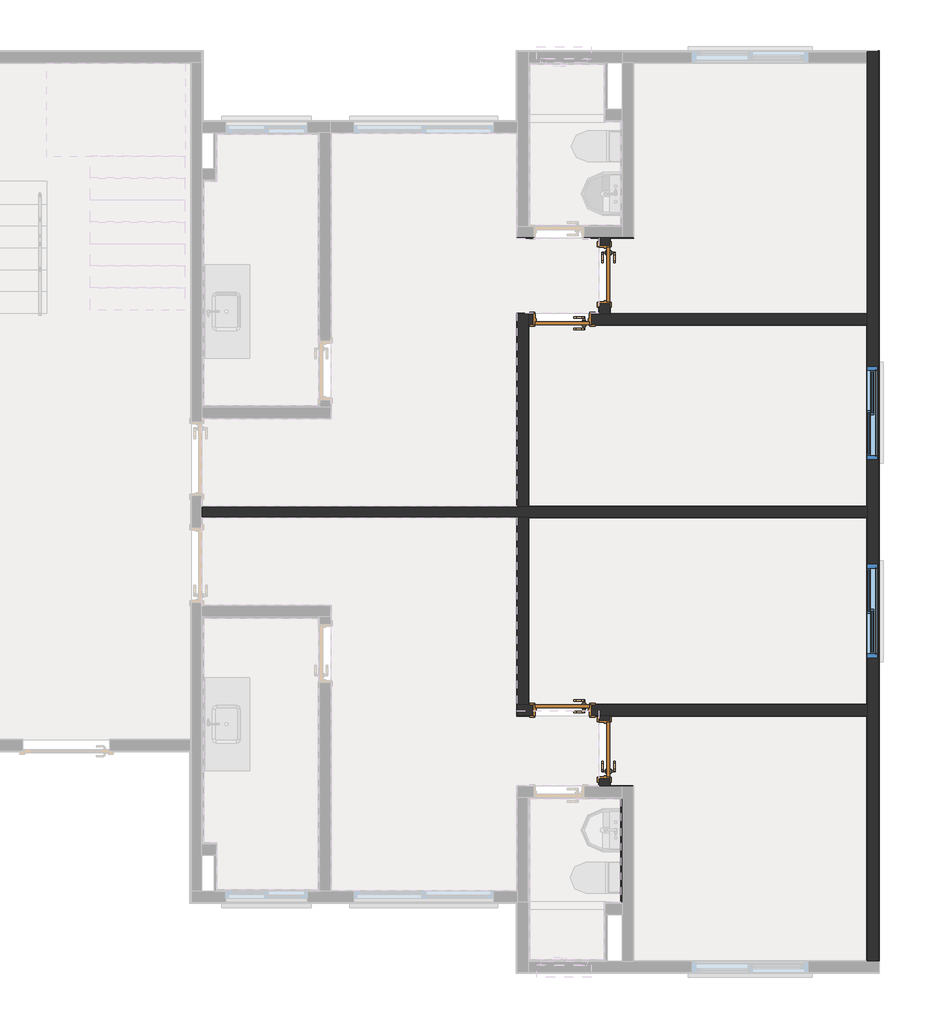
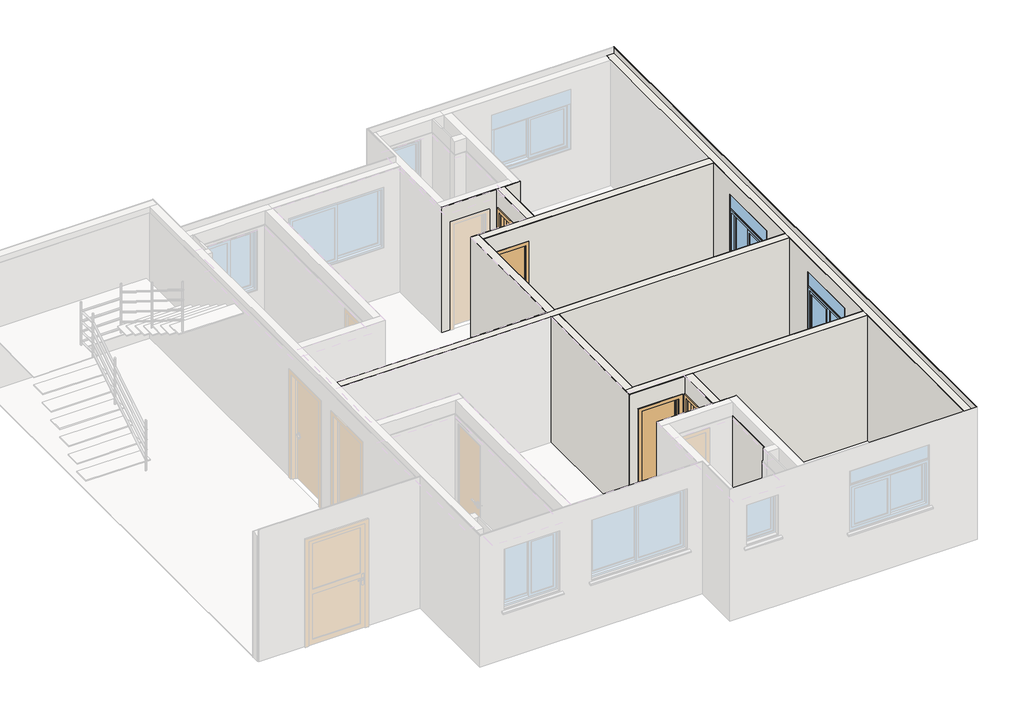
# One storey, part 7 of 9: 31 walls, 4 doors, 2 windows.
"""IFC4 building model written with IfcOpenShell, lengths in millimetres."""

from ifc_helpers import new_model, si_unit, frame, origin, place, context, project, spatial, polyline, outline, extrude, faceted_brep, transform, mapped, element, save
from components import porta_de_madeira_interna_70_x_210_porta_de_madeira_interna_d0067c94, porta_de_madeira_interna_70_x_210_porta_de_madeira_interna_f307109d, window_120x120_fed861a7, window_120x120_8f0dd2b5

model = new_model("IFC4")

# Units and contexts
model_context = context("Model", 3, world=origin())
ifc_project = project(units=[si_unit("LENGTHUNIT", "METRE", prefix="MILLI")], contexts=[model_context])

# Site, building, storey
site = spatial("IfcSite", under=ifc_project)
building = spatial("IfcBuilding", under=site)
storey = spatial("IfcBuildingStorey", under=building, Name="2º Pavimento", Elevation=2630.0)

# Doors
placement = place(None, origin())
porta_de_madeira_interna_70_x_210_porta_de_madeira_interna_shape = porta_de_madeira_interna_70_x_210_porta_de_madeira_interna_d0067c94(model_context)
element("IfcDoor", 1, ObjectType="Porta de Madeira Interna 70 x 210 : Porta de Madeira Interna 70 x 210", at=placement, inside=storey, context=model_context, shape_type="MappedRepresentation", body=[
    mapped(porta_de_madeira_interna_70_x_210_porta_de_madeira_interna_shape, transform((17273.1716432, 9457.0248023, 2630.0), x_axis=(0.0, -1.0, 0.0), y_axis=(1.0, 0.0, 0.0), z_axis=(0.0, 0.0, 1.0))),
])
element("IfcDoor", 2, ObjectType="Porta de Madeira Interna 70 x 210 : Porta de Madeira Interna 70 x 210", at=placement, inside=storey, context=model_context, shape_type="MappedRepresentation", body=[
    mapped(porta_de_madeira_interna_70_x_210_porta_de_madeira_interna_shape, transform((16726.9947994, 8876.8494803, 2630.0), x_axis=(-1.0, 0.0, 0.0), y_axis=(0.0, -1.0, 0.0), z_axis=(0.0, 0.0, 1.0))),
])
porta_de_madeira_interna_70_x_210_porta_de_madeira_interna_2_shape = porta_de_madeira_interna_70_x_210_porta_de_madeira_interna_f307109d(model_context)
element("IfcDoor", 3, ObjectType="Porta de Madeira Interna 70 x 210 : Porta de Madeira Interna 70 x 210", at=placement, inside=storey, context=model_context, shape_type="MappedRepresentation", body=[
    mapped(porta_de_madeira_interna_70_x_210_porta_de_madeira_interna_2_shape, transform((17273.1716432, 3342.9958256, 2630.0), x_axis=(0.0, 1.0, 0.0), y_axis=(-1.0, 0.0, 0.0), z_axis=(0.0, 0.0, 1.0))),
])
element("IfcDoor", 4, ObjectType="Porta de Madeira Interna 70 x 210 : Porta de Madeira Interna 70 x 210", at=placement, inside=storey, context=model_context, shape_type="MappedRepresentation", body=[
    mapped(porta_de_madeira_interna_70_x_210_porta_de_madeira_interna_2_shape, transform((16726.9947994, 3853.1701411, 2630.0), x_axis=(-1.0, 0.0, 0.0), y_axis=(0.0, -1.0, 0.0), z_axis=(0.0, 0.0, 1.0))),
])

# Walls
element("IfcWall", 5, ObjectType="Alvenaria Estrutural", at=placement, inside=storey, context=model_context, shape_type="Brep", body=[
    faceted_brep([(20649.9955249, 12319.9951043, 2630.0), (20649.9955249, 12180.0252435, 2630.0), (20649.9955249, 8956.0244803, 2630.0), (20649.9955249, 8950.0244803, 2630.0), (20649.9955249, 8810.0244803, 2630.0), (20649.9955249, 8804.0244803, 2630.0), (20649.9955249, 6476.0103139, 2630.0), (20649.9955249, 6470.0103139, 2630.0), (20649.9955249, 6330.0103139, 2630.0), (20649.9955249, 6324.0103139, 2630.0), (20649.9955249, 3925.9951411, 2630.0), (20649.9955249, 3919.9951411, 2630.0), (20649.9955249, 3779.9951411, 2630.0), (20649.9955249, 3773.9951411, 2630.0), (20649.9955249, 619.9952456, 2630.0), (20649.9955249, 619.9952456, 5140.0), (20649.9955249, 3773.9951411, 5140.0), (20649.9955249, 3779.9951411, 5140.0), (20649.9955249, 3919.9951411, 5140.0), (20649.9955249, 3925.9951411, 5140.0), (20649.9955249, 6324.0103139, 5140.0), (20649.9955249, 6330.0103139, 5140.0), (20649.9955249, 6470.0103139, 5140.0), (20649.9955249, 6476.0103139, 5140.0), (20649.9955249, 8804.0244803, 5140.0), (20649.9955249, 8810.0244803, 5140.0), (20649.9955249, 8950.0244803, 5140.0), (20649.9955249, 8956.0244803, 5140.0), (20649.9955249, 12180.0252435, 5140.0), (20649.9955249, 12319.9951043, 5140.0), (20649.9955249, 5725.0101878, 3630.0), (20649.9955249, 5725.0101878, 4830.0), (20649.9955249, 4525.0101878, 4830.0), (20649.9955249, 4525.0101878, 3630.0), (20649.9955249, 7075.01044, 4830.0), (20649.9955249, 7075.01044, 3630.0), (20649.9955249, 8275.01044, 3630.0), (20649.9955249, 8275.01044, 4830.0), (20789.9955249, 619.9952456, 2630.0), (20789.9955249, 12319.9951043, 2630.0), (20789.9955249, 12319.9951043, 5140.0), (20789.9955249, 619.9952456, 5140.0), (20789.9955249, 5725.0101878, 4830.0), (20789.9955249, 5725.0101878, 3630.0), (20789.9955249, 5775.0101878, 3630.0), (20789.9955249, 5775.0101878, 3581.3083694), (20789.9955249, 4475.0101878, 3581.3083694), (20789.9955249, 4475.0101878, 3630.0), (20789.9955249, 4525.0101878, 3630.0), (20789.9955249, 4525.0101878, 4830.0), (20789.9955249, 7025.01044, 3581.3083694), (20789.9955249, 7025.01044, 3630.0), (20789.9955249, 7075.01044, 3630.0), (20789.9955249, 7075.01044, 4830.0), (20789.9955249, 8275.01044, 4830.0), (20789.9955249, 8275.01044, 3630.0), (20789.9955249, 8325.01044, 3630.0), (20789.9955249, 8325.01044, 3581.3083694), (20692.4955249, 5725.0101878, 3630.0), (20692.4955249, 4525.0101878, 3630.0), (20692.4955249, 7075.01044, 3630.0), (20692.4955249, 8275.01044, 3630.0), (20692.4955249, 4475.0101878, 3602.0326341), (20692.4955249, 4475.0101878, 3630.0), (20692.4955249, 5775.0101878, 3630.0), (20692.4955249, 5775.0101878, 3602.0326341), (20692.4955249, 7025.01044, 3602.0326341), (20692.4955249, 7025.01044, 3630.0), (20692.4955249, 8325.01044, 3630.0), (20692.4955249, 8325.01044, 3602.0326341)], [[[0, 1, 2, 3, 4, 5, 6, 7, 8, 9, 10, 11, 12, 13, 14, 15, 16, 17, 18, 19, 20, 21, 22, 23, 24, 25, 26, 27, 28, 29], [30, 31, 32, 33], [34, 35, 36, 37]], [[38, 39, 40, 41], [42, 43, 44, 45, 46, 47, 48, 49], [50, 51, 52, 53, 54, 55, 56, 57]], [[31, 30, 58, 43, 42]], [[32, 31, 42, 49]], [[33, 32, 49, 48, 59]], [[30, 33, 59, 58]], [[35, 34, 53, 52, 60]], [[34, 37, 54, 53]], [[37, 36, 61, 55, 54]], [[36, 35, 60, 61]], [[1, 0, 39, 38, 14, 13, 12, 11, 10, 9, 8, 7, 6, 5, 4, 3, 2]], [[15, 14, 38, 41]], [[16, 15, 41, 40, 29, 28, 27, 26, 25, 24, 23, 22, 21, 20, 19, 18, 17]], [[0, 29, 40, 39]], [[47, 46, 62, 63]], [[45, 44, 64, 65]], [[58, 59, 63, 62, 65, 64]], [[48, 47, 63, 59]], [[46, 45, 65, 62]], [[51, 50, 66, 67]], [[57, 56, 68, 69]], [[61, 60, 67, 66, 69, 68]], [[52, 51, 67, 60]], [[50, 57, 69, 66]], [[56, 55, 61, 68]], [[44, 43, 58, 64]]]),
])
element("IfcWall", 6, ObjectType="Alvenaria Estrutural", at=placement, inside=storey, context=model_context, shape_type="Brep", body=[
    faceted_brep([(16149.9950207, 3919.9951411, 5140.0), (16289.9950207, 3919.9951411, 5140.0), (16295.9950207, 3919.9951411, 5140.0), (20643.9955249, 3919.9951411, 5140.0), (20649.9955249, 3919.9951411, 5140.0), (20649.9955249, 3919.9951411, 2630.0), (20643.9955249, 3919.9951411, 2630.0), (17101.9947994, 3919.9951411, 2630.0), (17101.9947994, 3919.9951411, 4755.0), (16351.9947994, 3919.9951411, 4755.0), (16351.9947994, 3919.9951411, 2630.0), (16295.9950207, 3919.9951411, 2630.0), (16289.9950207, 3919.9951411, 2630.0), (16149.9950207, 3919.9951411, 2630.0), (20649.9955249, 3779.9951411, 5140.0), (20643.9955249, 3779.9951411, 5140.0), (17345.9966432, 3779.9951411, 5140.0), (17339.9966432, 3779.9951411, 5140.0), (17199.9966432, 3779.9951411, 5140.0), (17193.9966432, 3779.9951411, 5140.0), (16149.9950207, 3779.9951411, 5140.0), (16149.9950207, 3779.9951411, 2630.0), (16351.9947994, 3779.9951411, 2630.0), (16351.9947994, 3779.9951411, 4755.0), (17101.9947994, 3779.9951411, 4755.0), (17101.9947994, 3779.9951411, 2630.0), (17193.9966432, 3779.9951411, 2630.0), (17199.9966432, 3779.9951411, 2630.0), (17339.9966432, 3779.9951411, 2630.0), (17345.9966432, 3779.9951411, 2630.0), (20643.9955249, 3779.9951411, 2630.0), (20649.9955249, 3779.9951411, 2630.0)], [[[0, 1, 2, 3, 4, 5, 6, 7, 8, 9, 10, 11, 12, 13]], [[14, 15, 16, 17, 18, 19, 20, 21, 22, 23, 24, 25, 26, 27, 28, 29, 30, 31]], [[6, 5, 31, 30, 29, 28, 27, 26, 25, 7]], [[1, 0, 20, 19, 18, 17, 16, 15, 14, 4, 3, 2]], [[10, 9, 23, 22]], [[9, 8, 24, 23]], [[8, 7, 25, 24]], [[0, 13, 21, 20]], [[5, 4, 14, 31]], [[11, 10, 22, 21, 13, 12]]]),
])
element("IfcWall", 7, ObjectType="Alvenaria Estrutural", at=placement, inside=storey, context=model_context, shape_type="Brep", body=[
    faceted_brep([(20649.9955249, 6470.0103139, 2630.0), (20643.9955249, 6470.0103139, 2630.0), (16295.9950207, 6470.0103139, 2630.0), (16289.9950207, 6470.0103139, 2630.0), (16149.9950207, 6470.0103139, 2630.0), (16143.9950207, 6470.0103139, 2630.0), (12095.9984066, 6470.0103139, 2630.0), (12089.9984066, 6470.0103139, 2630.0), (12089.9984066, 6470.0103139, 5140.0), (12095.9984066, 6470.0103139, 5140.0), (16143.9950207, 6470.0103139, 5140.0), (16149.9950207, 6470.0103139, 5140.0), (16289.9950207, 6470.0103139, 5140.0), (16295.9950207, 6470.0103139, 5140.0), (20643.9955249, 6470.0103139, 5140.0), (20649.9955249, 6470.0103139, 5140.0), (20649.9955249, 6330.0103139, 2630.0), (20649.9955249, 6330.0103139, 5140.0), (20643.9955249, 6330.0103139, 5140.0), (16295.9950207, 6330.0103139, 5140.0), (16289.9950207, 6330.0103139, 5140.0), (16149.9950207, 6330.0103139, 5140.0), (16143.9950207, 6330.0103139, 5140.0), (12095.9984066, 6330.0103139, 5140.0), (12089.9984066, 6330.0103139, 5140.0), (12089.9984066, 6330.0103139, 2630.0), (12095.9984066, 6330.0103139, 2630.0), (16143.9950207, 6330.0103139, 2630.0), (16149.9950207, 6330.0103139, 2630.0), (16289.9950207, 6330.0103139, 2630.0), (16295.9950207, 6330.0103139, 2630.0), (20643.9955249, 6330.0103139, 2630.0)], [[[0, 1, 2, 3, 4, 5, 6, 7, 8, 9, 10, 11, 12, 13, 14, 15]], [[16, 17, 18, 19, 20, 21, 22, 23, 24, 25, 26, 27, 28, 29, 30, 31]], [[1, 0, 16, 31, 30, 29, 28, 27, 26, 25, 7, 6, 5, 4, 3, 2]], [[9, 8, 24, 23, 22, 21, 20, 19, 18, 17, 15, 14, 13, 12, 11, 10]], [[8, 7, 25, 24]], [[0, 15, 17, 16]]]),
])
element("IfcWall", 8, ObjectType="Alvenaria Estrutural", at=placement, inside=storey, context=model_context, shape_type="Brep", body=[
    faceted_brep([(16149.9950207, 6330.0103139, 2630.0), (16149.9950207, 6324.0103139, 2630.0), (16149.9950207, 3919.9951411, 2630.0), (16149.9950207, 3919.9951411, 5140.0), (16149.9950207, 6324.0103139, 5140.0), (16149.9950207, 6330.0103139, 5140.0), (16289.9950207, 6330.0103139, 2630.0), (16289.9950207, 6330.0103139, 5140.0), (16289.9950207, 6324.0103139, 5140.0), (16289.9950207, 3925.9951411, 5140.0), (16289.9950207, 3919.9951411, 5140.0), (16289.9950207, 3919.9951411, 2630.0), (16289.9950207, 3925.9951411, 2630.0), (16289.9950207, 6324.0103139, 2630.0)], [[[0, 1, 2, 3, 4, 5]], [[6, 7, 8, 9, 10, 11, 12, 13]], [[1, 0, 6, 13, 12, 11, 2]], [[4, 3, 10, 9, 8, 7, 5]], [[0, 5, 7, 6]], [[3, 2, 11, 10]]]),
])
element("IfcWall", 9, ObjectType="Alvenaria Estrutural", at=placement, inside=storey, context=model_context, shape_type="Brep", body=[
    faceted_brep([(17199.9966432, 2869.9967615, 5140.0), (17199.9966432, 2875.9967615, 5140.0), (17199.9966432, 3773.9951411, 5140.0), (17199.9966432, 3779.9951411, 5140.0), (17199.9966432, 3779.9951411, 2630.0), (17199.9966432, 3773.9951411, 2630.0), (17199.9966432, 3717.9958256, 2630.0), (17199.9966432, 3717.9958256, 4755.0), (17199.9966432, 2967.9958256, 4755.0), (17199.9966432, 2967.9958256, 2630.0), (17199.9966432, 2875.9967615, 2630.0), (17199.9966432, 2869.9967615, 2630.0), (17339.9966432, 3779.9951411, 5140.0), (17339.9966432, 2875.9967615, 5140.0), (17339.9966432, 2869.9967615, 5140.0), (17339.9966432, 2869.9967615, 2630.0), (17339.9966432, 2875.9967615, 2630.0), (17339.9966432, 2967.9958256, 2630.0), (17339.9966432, 2967.9958256, 4755.0), (17339.9966432, 3717.9958256, 4755.0), (17339.9966432, 3717.9958256, 2630.0), (17339.9966432, 3779.9951411, 2630.0)], [[[0, 1, 2, 3, 4, 5, 6, 7, 8, 9, 10, 11]], [[12, 13, 14, 15, 16, 17, 18, 19, 20, 21]], [[5, 4, 21, 20, 6]], [[1, 0, 14, 13, 12, 3, 2]], [[7, 6, 20, 19]], [[8, 7, 19, 18]], [[9, 8, 18, 17]], [[0, 11, 15, 14]], [[4, 3, 12, 21]], [[10, 9, 17, 16, 15, 11]]]),
])
element("IfcWall", 10, ObjectType="Alvenaria Estrutural", at=placement, inside=storey, context=model_context, shape_type="Brep", body=[
    faceted_brep([(16289.9950207, 6470.0103139, 2630.0), (16289.9950207, 6476.0103139, 2630.0), (16289.9950207, 8804.0244803, 2630.0), (16289.9950207, 8810.0244803, 2630.0), (16289.9950207, 8950.0244803, 2630.0), (16289.9950207, 8950.0244803, 5140.0), (16289.9950207, 8810.0244803, 5140.0), (16289.9950207, 8804.0244803, 5140.0), (16289.9950207, 6476.0103139, 5140.0), (16289.9950207, 6470.0103139, 5140.0), (16149.9950207, 6470.0103139, 2630.0), (16149.9950207, 6470.0103139, 5140.0), (16149.9950207, 6476.0103139, 5140.0), (16149.9950207, 8950.0244803, 5140.0), (16149.9950207, 8950.0244803, 2630.0), (16149.9950207, 6476.0103139, 2630.0)], [[[0, 1, 2, 3, 4, 5, 6, 7, 8, 9]], [[10, 11, 12, 13, 14, 15]], [[1, 0, 10, 15, 14, 4, 3, 2]], [[6, 5, 13, 12, 11, 9, 8, 7]], [[5, 4, 14, 13]], [[0, 9, 11, 10]]]),
])
element("IfcWall", 11, ObjectType="Alvenaria Estrutural", at=placement, inside=storey, context=model_context, shape_type="Brep", body=[
    faceted_brep([(17339.9966432, 9930.0238664, 5140.0), (17339.9966432, 9924.0238664, 5140.0), (17339.9966432, 8950.0244803, 5140.0), (17339.9966432, 8950.0244803, 2630.0), (17339.9966432, 9082.0248023, 2630.0), (17339.9966432, 9082.0248023, 4755.0), (17339.9966432, 9832.0248023, 4755.0), (17339.9966432, 9832.0248023, 2630.0), (17339.9966432, 9924.0238664, 2630.0), (17339.9966432, 9930.0238664, 2630.0), (17199.9966432, 8950.0244803, 5140.0), (17199.9966432, 8956.0244803, 5140.0), (17199.9966432, 9924.0238664, 5140.0), (17199.9966432, 9930.0238664, 5140.0), (17199.9966432, 9930.0238664, 2630.0), (17199.9966432, 9924.0238664, 2630.0), (17199.9966432, 9832.0248023, 2630.0), (17199.9966432, 9832.0248023, 4755.0), (17199.9966432, 9082.0248023, 4755.0), (17199.9966432, 9082.0248023, 2630.0), (17199.9966432, 8956.0244803, 2630.0), (17199.9966432, 8950.0244803, 2630.0)], [[[0, 1, 2, 3, 4, 5, 6, 7, 8, 9]], [[10, 11, 12, 13, 14, 15, 16, 17, 18, 19, 20, 21]], [[4, 3, 21, 20, 19]], [[1, 0, 13, 12, 11, 10, 2]], [[5, 4, 19, 18]], [[6, 5, 18, 17]], [[7, 6, 17, 16]], [[3, 2, 10, 21]], [[0, 9, 14, 13]], [[8, 7, 16, 15, 14, 9]]]),
])
element("IfcWall", 12, ObjectType="Alvenaria Estrutural", at=placement, inside=storey, context=model_context, shape_type="Brep", body=[
    faceted_brep([(20649.9955249, 8810.0244803, 5140.0), (20643.9955249, 8810.0244803, 5140.0), (16295.9950207, 8810.0244803, 5140.0), (16289.9950207, 8810.0244803, 5140.0), (16289.9950207, 8810.0244803, 2630.0), (16295.9950207, 8810.0244803, 2630.0), (16351.9947994, 8810.0244803, 2630.0), (16351.9947994, 8810.0244803, 4755.0), (17101.9947994, 8810.0244803, 4755.0), (17101.9947994, 8810.0244803, 2630.0), (20643.9955249, 8810.0244803, 2630.0), (20649.9955249, 8810.0244803, 2630.0), (16289.9950207, 8950.0244803, 5140.0), (17193.9966432, 8950.0244803, 5140.0), (17199.9966432, 8950.0244803, 5140.0), (17339.9966432, 8950.0244803, 5140.0), (17345.9966432, 8950.0244803, 5140.0), (20643.9955249, 8950.0244803, 5140.0), (20649.9955249, 8950.0244803, 5140.0), (20649.9955249, 8950.0244803, 2630.0), (20643.9955249, 8950.0244803, 2630.0), (17345.9966432, 8950.0244803, 2630.0), (17339.9966432, 8950.0244803, 2630.0), (17199.9966432, 8950.0244803, 2630.0), (17193.9966432, 8950.0244803, 2630.0), (17101.9947994, 8950.0244803, 2630.0), (17101.9947994, 8950.0244803, 4755.0), (16351.9947994, 8950.0244803, 4755.0), (16351.9947994, 8950.0244803, 2630.0), (16289.9950207, 8950.0244803, 2630.0)], [[[0, 1, 2, 3, 4, 5, 6, 7, 8, 9, 10, 11]], [[12, 13, 14, 15, 16, 17, 18, 19, 20, 21, 22, 23, 24, 25, 26, 27, 28, 29]], [[5, 4, 29, 28, 6]], [[1, 0, 18, 17, 16, 15, 14, 13, 12, 3, 2]], [[7, 6, 28, 27]], [[8, 7, 27, 26]], [[9, 8, 26, 25]], [[4, 3, 12, 29]], [[0, 11, 19, 18]], [[10, 9, 25, 24, 23, 22, 21, 20, 19, 11]]]),
])
element("IfcWall", 13, ObjectType="Azulejo", at=placement, inside=storey, context=model_context, shape_type="SweptSolid", body=[
    extrude(outline(polyline([(17479.9970535, 1379.9970972), (17479.9970535, 2709.9967615), (17489.9970535, 2709.9967615), (17489.9970535, 1379.9970972), (17479.9970535, 1379.9970972)])), frame((0.0, 0.0, 2630.0), z_axis=(0.0, 0.0, 1.0), x_axis=(1.0, 0.0, 0.0)), (0.0, 0.0, 1.0), 2250.0),
    extrude(outline(polyline([(17499.9970535, 2719.9967615), (17499.9970535, 1369.9970972), (17489.9970535, 1369.9970972), (17489.9970535, 2719.9967615), (17499.9970535, 2719.9967615)])), frame((0.0, 0.0, 2630.0), z_axis=(0.0, 0.0, 1.0), x_axis=(1.0, 0.0, 0.0)), (0.0, 0.0, 1.0), 2250.0),
])
element("IfcWall", 14, ObjectType="Gesso Liso + Pintura", at=placement, inside=storey, context=model_context, shape_type="SweptSolid", body=[
    extrude(outline(polyline([(6470.0103139, 2630.0), (6470.0103139, 5140.0), (8810.0244803, 5140.0), (8810.0244803, 2630.0), (6470.0103139, 2630.0)]), holes=[polyline([(7075.01044, 3630.0), (8275.01044, 3630.0), (8275.01044, 4830.0), (7075.01044, 4830.0), (7075.01044, 3630.0)])]), frame((20643.9955249, 0.0, 0.0), z_axis=(1.0, 0.0, 0.0), x_axis=(0.0, 1.0, 0.0)), (0.0, 0.0, 1.0), 1.0),
    extrude(outline(polyline([(8810.0244803, 2630.0), (6470.0103139, 2630.0), (6470.0103139, 5140.0), (8810.0244803, 5140.0), (8810.0244803, 2630.0)]), holes=[polyline([(7075.01044, 4830.0), (7075.01044, 3630.0), (8275.01044, 3630.0), (8275.01044, 4830.0), (7075.01044, 4830.0)])]), frame((20644.9955249, 0.0, 0.0), z_axis=(1.0, 0.0, 0.0), x_axis=(0.0, 1.0, 0.0)), (0.0, 0.0, 1.0), 5.0),
])
element("IfcWall", 15, ObjectType="Gesso Liso + Pintura", at=placement, inside=storey, context=model_context, shape_type="SweptSolid", body=[
    extrude(outline(polyline([(5140.0, 20649.9955249), (5140.0, 16289.9950207), (2630.0, 16289.9950207), (2630.0, 16351.9947994), (4755.0, 16351.9947994), (4755.0, 17101.9947994), (2630.0, 17101.9947994), (2630.0, 20649.9955249), (5140.0, 20649.9955249)])), frame((0.0, 8804.0244803, 0.0), z_axis=(0.0, 1.0, 0.0), x_axis=(0.0, 0.0, 1.0)), (0.0, 0.0, 1.0), 1.0),
    extrude(outline(polyline([(2630.0, 17101.9947994), (2630.0, 20649.9955249), (5140.0, 20649.9955249), (5140.0, 16289.9950207), (2630.0, 16289.9950207), (2630.0, 16351.9947994), (4755.0, 16351.9947994), (4755.0, 17101.9947994), (2630.0, 17101.9947994)])), frame((0.0, 8805.0244803, 0.0), z_axis=(0.0, 1.0, 0.0), x_axis=(0.0, 0.0, 1.0)), (0.0, 0.0, 1.0), 5.0),
])
element("IfcWall", 16, ObjectType="Gesso Liso + Pintura", at=placement, inside=storey, context=model_context, shape_type="SweptSolid", body=[
    extrude(outline(polyline([(16295.9950207, 8810.0244803), (16295.9950207, 6470.0103139), (16294.9950207, 6470.0103139), (16294.9950207, 8810.0244803), (16295.9950207, 8810.0244803)])), frame((0.0, 0.0, 2630.0), z_axis=(0.0, 0.0, 1.0), x_axis=(1.0, 0.0, 0.0)), (0.0, 0.0, 1.0), 2510.0),
    extrude(outline(polyline([(16289.9950207, 6470.0103139), (16289.9950207, 8810.0244803), (16294.9950207, 8810.0244803), (16294.9950207, 6470.0103139), (16289.9950207, 6470.0103139)])), frame((0.0, 0.0, 2630.0), z_axis=(0.0, 0.0, 1.0), x_axis=(1.0, 0.0, 0.0)), (0.0, 0.0, 1.0), 2510.0),
])
element("IfcWall", 17, ObjectType="Gesso Liso + Pintura", at=placement, inside=storey, context=model_context, shape_type="SweptSolid", body=[
    extrude(outline(polyline([(16289.9950207, 6476.0103139), (20649.9955249, 6476.0103139), (20649.9955249, 6475.0103139), (16289.9950207, 6475.0103139), (16289.9950207, 6476.0103139)])), frame((0.0, 0.0, 2630.0), z_axis=(0.0, 0.0, 1.0), x_axis=(1.0, 0.0, 0.0)), (0.0, 0.0, 1.0), 2510.0),
    extrude(outline(polyline([(20649.9955249, 6470.0103139), (16289.9950207, 6470.0103139), (16289.9950207, 6475.0103139), (20649.9955249, 6475.0103139), (20649.9955249, 6470.0103139)])), frame((0.0, 0.0, 2630.0), z_axis=(0.0, 0.0, 1.0), x_axis=(1.0, 0.0, 0.0)), (0.0, 0.0, 1.0), 2510.0),
])
element("IfcWall", 18, ObjectType="Gesso Liso + Pintura", at=placement, inside=storey, context=model_context, shape_type="SweptSolid", body=[
    extrude(outline(polyline([(6330.0103139, 2630.0), (3919.9951411, 2630.0), (3919.9951411, 5140.0), (6330.0103139, 5140.0), (6330.0103139, 2630.0)]), holes=[polyline([(5725.0101878, 3630.0), (5725.0101878, 4830.0), (4525.0101878, 4830.0), (4525.0101878, 3630.0), (5725.0101878, 3630.0)])]), frame((20643.9955249, 0.0, 0.0), z_axis=(1.0, 0.0, 0.0), x_axis=(0.0, 1.0, 0.0)), (0.0, 0.0, 1.0), 1.0),
    extrude(outline(polyline([(6330.0103139, 2630.0), (3919.9951411, 2630.0), (3919.9951411, 5140.0), (6330.0103139, 5140.0), (6330.0103139, 2630.0)]), holes=[polyline([(5725.0101878, 3630.0), (5725.0101878, 4830.0), (4525.0101878, 4830.0), (4525.0101878, 3630.0), (5725.0101878, 3630.0)])]), frame((20644.9955249, 0.0, 0.0), z_axis=(1.0, 0.0, 0.0), x_axis=(0.0, 1.0, 0.0)), (0.0, 0.0, 1.0), 5.0),
])
element("IfcWall", 19, ObjectType="Gesso Liso + Pintura", at=placement, inside=storey, context=model_context, shape_type="SweptSolid", body=[
    extrude(outline(polyline([(2630.0, 17101.9947994), (2630.0, 20649.9955249), (5140.0, 20649.9955249), (5140.0, 16289.9950207), (2630.0, 16289.9950207), (2630.0, 16351.9947994), (4755.0, 16351.9947994), (4755.0, 17101.9947994), (2630.0, 17101.9947994)])), frame((0.0, 3924.9951411, 0.0), z_axis=(0.0, 1.0, 0.0), x_axis=(0.0, 0.0, 1.0)), (0.0, 0.0, 1.0), 1.0),
    extrude(outline(polyline([(5140.0, 20649.9955249), (5140.0, 16289.9950207), (2630.0, 16289.9950207), (2630.0, 16351.9947994), (4755.0, 16351.9947994), (4755.0, 17101.9947994), (2630.0, 17101.9947994), (2630.0, 20649.9955249), (5140.0, 20649.9955249)])), frame((0.0, 3919.9951411, 0.0), z_axis=(0.0, 1.0, 0.0), x_axis=(0.0, 0.0, 1.0)), (0.0, 0.0, 1.0), 5.0),
])
element("IfcWall", 20, ObjectType="Gesso Liso + Pintura", at=placement, inside=storey, context=model_context, shape_type="SweptSolid", body=[
    extrude(outline(polyline([(16295.9950207, 6330.0103139), (16295.9950207, 3919.9951411), (16294.9950207, 3919.9951411), (16294.9950207, 6330.0103139), (16295.9950207, 6330.0103139)])), frame((0.0, 0.0, 2630.0), z_axis=(0.0, 0.0, 1.0), x_axis=(1.0, 0.0, 0.0)), (0.0, 0.0, 1.0), 2510.0),
    extrude(outline(polyline([(16289.9950207, 3919.9951411), (16289.9950207, 6330.0103139), (16294.9950207, 6330.0103139), (16294.9950207, 3919.9951411), (16289.9950207, 3919.9951411)])), frame((0.0, 0.0, 2630.0), z_axis=(0.0, 0.0, 1.0), x_axis=(1.0, 0.0, 0.0)), (0.0, 0.0, 1.0), 2510.0),
])
element("IfcWall", 21, ObjectType="Gesso Liso + Pintura", at=placement, inside=storey, context=model_context, shape_type="SweptSolid", body=[
    extrude(outline(polyline([(20649.9955249, 6324.0103139), (16289.9950207, 6324.0103139), (16289.9950207, 6325.0103139), (20649.9955249, 6325.0103139), (20649.9955249, 6324.0103139)])), frame((0.0, 0.0, 2630.0), z_axis=(0.0, 0.0, 1.0), x_axis=(1.0, 0.0, 0.0)), (0.0, 0.0, 1.0), 2510.0),
    extrude(outline(polyline([(16289.9950207, 6330.0103139), (20649.9955249, 6330.0103139), (20649.9955249, 6325.0103139), (16289.9950207, 6325.0103139), (16289.9950207, 6330.0103139)])), frame((0.0, 0.0, 2630.0), z_axis=(0.0, 0.0, 1.0), x_axis=(1.0, 0.0, 0.0)), (0.0, 0.0, 1.0), 2510.0),
])
element("IfcWall", 22, ObjectType="Gesso Liso + Pintura", at=placement, inside=storey, context=model_context, shape_type="SolidModel", body=[
    faceted_brep([(20643.9955249, 625.9952456, 2630.0), (20643.9955249, 3779.9951411, 2630.0), (20644.9955249, 3779.9951411, 2630.0), (20644.9955249, 624.9952456, 2630.0), (20643.9955249, 624.9952456, 2630.0), (20644.9955249, 3779.9951411, 5140.0), (20643.9955249, 3779.9951411, 5140.0), (20643.9955249, 625.9952456, 5140.0), (20643.9955249, 624.9952456, 5140.0), (20644.9955249, 624.9952456, 5140.0)], [[[0, 1, 2, 3, 4]], [[5, 6, 7, 8, 9]], [[2, 1, 6, 5]], [[2, 5, 9, 3]], [[1, 0, 4, 8, 7, 6]], [[4, 3, 9, 8]]]),
    extrude(outline(polyline([(20649.9955249, 3779.9951411), (20649.9955249, 619.9952456), (20644.9955249, 619.9952456), (20644.9955249, 3779.9951411), (20649.9955249, 3779.9951411)])), frame((0.0, 0.0, 2630.0), z_axis=(0.0, 0.0, 1.0), x_axis=(1.0, 0.0, 0.0)), (0.0, 0.0, 1.0), 2510.0),
])
element("IfcWall", 23, ObjectType="Gesso Liso + Pintura", at=placement, inside=storey, context=model_context, shape_type="SolidModel", body=[
    faceted_brep([(17345.9966432, 2875.9967615, 2630.0), (17644.9970535, 2875.9967615, 2630.0), (17644.9970535, 2874.9967615, 2630.0), (17344.9966432, 2874.9967615, 2630.0), (17344.9966432, 2875.9967615, 2630.0), (17644.9970535, 2875.9967615, 5140.0), (17345.9966432, 2875.9967615, 5140.0), (17344.9966432, 2875.9967615, 5140.0), (17344.9966432, 2874.9967615, 5140.0), (17644.9970535, 2874.9967615, 5140.0)], [[[0, 1, 2, 3, 4]], [[5, 6, 7, 8, 9]], [[2, 9, 8, 3]], [[1, 0, 4, 7, 6, 5]], [[1, 5, 9, 2]], [[4, 3, 8, 7]]]),
    extrude(outline(polyline([(17639.9970535, 2869.9967615), (17339.9966432, 2869.9967615), (17339.9966432, 2874.9967615), (17639.9970535, 2874.9967615), (17639.9970535, 2869.9967615)])), frame((0.0, 0.0, 2630.0), z_axis=(0.0, 0.0, 1.0), x_axis=(1.0, 0.0, 0.0)), (0.0, 0.0, 1.0), 2510.0),
])
element("IfcWall", 24, ObjectType="Gesso Liso + Pintura", at=placement, inside=storey, context=model_context, shape_type="SolidModel", body=[
    faceted_brep([(17345.9966432, 2967.9958256, 2630.0), (17345.9966432, 2875.9967615, 2630.0), (17344.9966432, 2875.9967615, 2630.0), (17344.9966432, 2967.9958256, 2630.0), (17344.9966432, 2875.9967615, 5140.0), (17345.9966432, 2875.9967615, 5140.0), (17345.9966432, 3773.9951411, 5140.0), (17345.9966432, 3774.9951411, 5140.0), (17344.9966432, 3774.9951411, 5140.0), (17345.9966432, 3717.9958256, 2630.0), (17345.9966432, 3717.9958256, 4755.0), (17344.9966432, 3717.9958256, 4755.0), (17344.9966432, 3717.9958256, 2630.0), (17345.9966432, 2967.9958256, 4755.0), (17344.9966432, 2967.9958256, 4755.0), (17344.9966432, 3774.9951411, 2630.0), (17345.9966432, 3774.9951411, 2630.0), (17345.9966432, 3773.9951411, 2630.0)], [[[0, 1, 2, 3]], [[4, 5, 6, 7, 8]], [[9, 10, 11, 12]], [[11, 10, 13, 14]], [[0, 3, 14, 13]], [[2, 1, 5, 4]], [[9, 12, 15, 16, 17]], [[3, 2, 4, 8, 15, 12, 11, 14]], [[1, 0, 13, 10, 9, 17, 16, 7, 6, 5]], [[8, 7, 16, 15]]]),
    extrude(outline(polyline([(2874.9967615, 5140.0), (3779.9951411, 5140.0), (3779.9951411, 2630.0), (3717.9958256, 2630.0), (3717.9958256, 4755.0), (2967.9958256, 4755.0), (2967.9958256, 2630.0), (2874.9967615, 2630.0), (2874.9967615, 5140.0)])), frame((17339.9966432, 0.0, 0.0), z_axis=(1.0, 0.0, 0.0), x_axis=(0.0, 1.0, 0.0)), (0.0, 0.0, 1.0), 5.0),
])
element("IfcWall", 25, ObjectType="Gesso Liso + Pintura", at=placement, inside=storey, context=model_context, shape_type="SweptSolid", body=[
    extrude(outline(polyline([(20649.9955249, 3773.9951411), (17345.9966432, 3773.9951411), (17345.9966432, 3774.9951411), (20649.9955249, 3774.9951411), (20649.9955249, 3773.9951411)])), frame((0.0, 0.0, 2630.0), z_axis=(0.0, 0.0, 1.0), x_axis=(1.0, 0.0, 0.0)), (0.0, 0.0, 1.0), 2510.0),
    extrude(outline(polyline([(17344.9966432, 3779.9951411), (20649.9955249, 3779.9951411), (20649.9955249, 3774.9951411), (17344.9966432, 3774.9951411), (17344.9966432, 3779.9951411)])), frame((0.0, 0.0, 2630.0), z_axis=(0.0, 0.0, 1.0), x_axis=(1.0, 0.0, 0.0)), (0.0, 0.0, 1.0), 2510.0),
])
element("IfcWall", 26, ObjectType="Gesso Liso + Pintura", at=placement, inside=storey, context=model_context, shape_type="SolidModel", body=[
    faceted_brep([(17644.9970535, 9924.0238664, 2630.0), (17345.9966432, 9924.0238664, 2630.0), (17344.9966432, 9924.0238664, 2630.0), (17344.9966432, 9925.0238664, 2630.0), (17644.9970535, 9925.0238664, 2630.0), (17345.9966432, 9924.0238664, 5140.0), (17644.9970535, 9924.0238664, 5140.0), (17644.9970535, 9925.0238664, 5140.0), (17344.9966432, 9925.0238664, 5140.0), (17344.9966432, 9924.0238664, 5140.0)], [[[0, 1, 2, 3, 4]], [[5, 6, 7, 8, 9]], [[7, 4, 3, 8]], [[1, 0, 6, 5, 9, 2]], [[6, 0, 4, 7]], [[3, 2, 9, 8]]]),
    extrude(outline(polyline([(17339.9966432, 9930.0238664), (17639.9970535, 9930.0238664), (17639.9970535, 9925.0238664), (17339.9966432, 9925.0238664), (17339.9966432, 9930.0238664)])), frame((0.0, 0.0, 2630.0), z_axis=(0.0, 0.0, 1.0), x_axis=(1.0, 0.0, 0.0)), (0.0, 0.0, 1.0), 2510.0),
])
element("IfcWall", 27, ObjectType="Gesso Liso + Pintura", at=placement, inside=storey, context=model_context, shape_type="SolidModel", body=[
    faceted_brep([(17345.9966432, 9924.0238664, 2630.0), (17345.9966432, 9832.0248023, 2630.0), (17344.9966432, 9832.0248023, 2630.0), (17344.9966432, 9924.0238664, 2630.0), (17345.9966432, 8956.0244803, 5140.0), (17345.9966432, 9924.0238664, 5140.0), (17344.9966432, 9924.0238664, 5140.0), (17344.9966432, 8955.0244803, 5140.0), (17345.9966432, 8955.0244803, 5140.0), (17345.9966432, 9082.0248023, 4755.0), (17345.9966432, 9082.0248023, 2630.0), (17344.9966432, 9082.0248023, 2630.0), (17344.9966432, 9082.0248023, 4755.0), (17344.9966432, 9832.0248023, 4755.0), (17345.9966432, 9832.0248023, 4755.0), (17345.9966432, 8956.0244803, 2630.0), (17345.9966432, 8955.0244803, 2630.0), (17344.9966432, 8955.0244803, 2630.0)], [[[0, 1, 2, 3]], [[4, 5, 6, 7, 8]], [[9, 10, 11, 12]], [[9, 12, 13, 14]], [[2, 1, 14, 13]], [[0, 3, 6, 5]], [[11, 10, 15, 16, 17]], [[3, 2, 13, 12, 11, 17, 7, 6]], [[1, 0, 5, 4, 8, 16, 15, 10, 9, 14]], [[8, 7, 17, 16]]]),
    extrude(outline(polyline([(8950.0244803, 5140.0), (9925.0238664, 5140.0), (9925.0238664, 2630.0), (9832.0248023, 2630.0), (9832.0248023, 4755.0), (9082.0248023, 4755.0), (9082.0248023, 2630.0), (8950.0244803, 2630.0), (8950.0244803, 5140.0)])), frame((17339.9966432, 0.0, 0.0), z_axis=(1.0, 0.0, 0.0), x_axis=(0.0, 1.0, 0.0)), (0.0, 0.0, 1.0), 5.0),
])
element("IfcWall", 28, ObjectType="Gesso Liso + Pintura", at=placement, inside=storey, context=model_context, shape_type="SweptSolid", body=[
    extrude(outline(polyline([(2869.9967615, 5140.0), (3779.9951411, 5140.0), (3779.9951411, 2630.0), (3717.9958256, 2630.0), (3717.9958256, 4755.0), (2967.9958256, 4755.0), (2967.9958256, 2630.0), (2869.9967615, 2630.0), (2869.9967615, 5140.0)])), frame((17193.9966432, 0.0, 0.0), z_axis=(1.0, 0.0, 0.0), x_axis=(0.0, 1.0, 0.0)), (0.0, 0.0, 1.0), 1.0),
    extrude(outline(polyline([(2967.9958256, 2630.0), (2869.9967615, 2630.0), (2869.9967615, 5140.0), (3779.9951411, 5140.0), (3779.9951411, 2630.0), (3717.9958256, 2630.0), (3717.9958256, 4755.0), (2967.9958256, 4755.0), (2967.9958256, 2630.0)])), frame((17194.9966432, 0.0, 0.0), z_axis=(1.0, 0.0, 0.0), x_axis=(0.0, 1.0, 0.0)), (0.0, 0.0, 1.0), 5.0),
])
element("IfcWall", 29, ObjectType="Gesso Liso + Pintura", at=placement, inside=storey, context=model_context, shape_type="SolidModel", body=[
    extrude(outline(polyline([(5140.0, 17199.9966432), (5140.0, 16143.9950207), (2630.0, 16143.9950207), (2630.0, 16351.9947994), (4755.0, 16351.9947994), (4755.0, 17101.9947994), (2630.0, 17101.9947994), (2630.0, 17199.9966432), (5140.0, 17199.9966432)])), frame((0.0, 3773.9951411, 0.0), z_axis=(0.0, 1.0, 0.0), x_axis=(0.0, 0.0, 1.0)), (0.0, 0.0, 1.0), 1.0),
    faceted_brep([(16144.9950207, 3774.9951411, 2630.0), (16351.9947994, 3774.9951411, 2630.0), (16351.9947994, 3774.9951411, 4755.0), (17101.9947994, 3774.9951411, 4755.0), (17101.9947994, 3774.9951411, 2630.0), (17199.9966432, 3774.9951411, 2630.0), (17199.9966432, 3774.9951411, 5140.0), (16144.9950207, 3774.9951411, 5140.0), (16144.9950207, 3779.9951411, 5140.0), (16149.9950207, 3779.9951411, 5140.0), (17199.9966432, 3779.9951411, 5140.0), (17199.9966432, 3779.9951411, 2630.0), (17101.9947994, 3779.9951411, 2630.0), (17101.9947994, 3779.9951411, 4755.0), (16351.9947994, 3779.9951411, 4755.0), (16351.9947994, 3779.9951411, 2630.0), (16149.9950207, 3779.9951411, 2630.0), (16144.9950207, 3779.9951411, 2630.0)], [[[0, 1, 2, 3, 4, 5, 6, 7]], [[8, 9, 10, 11, 12, 13, 14, 15, 16, 17]], [[12, 11, 5, 4]], [[9, 8, 7, 6, 10]], [[15, 14, 2, 1]], [[14, 13, 3, 2]], [[13, 12, 4, 3]], [[11, 10, 6, 5]], [[16, 15, 1, 0, 17]], [[8, 17, 0, 7]]]),
])
element("IfcWall", 30, ObjectType="Gesso Liso + Pintura", at=placement, inside=storey, context=model_context, shape_type="SweptSolid", body=[
    extrude(outline(polyline([(16143.9950207, 3774.9951411), (16143.9950207, 6330.0103139), (16144.9950207, 6330.0103139), (16144.9950207, 3774.9951411), (16143.9950207, 3774.9951411)])), frame((0.0, 0.0, 2630.0), z_axis=(0.0, 0.0, 1.0), x_axis=(1.0, 0.0, 0.0)), (0.0, 0.0, 1.0), 2510.0),
    extrude(outline(polyline([(16149.9950207, 6330.0103139), (16149.9950207, 3779.9951411), (16144.9950207, 3779.9951411), (16144.9950207, 6330.0103139), (16149.9950207, 6330.0103139)])), frame((0.0, 0.0, 2630.0), z_axis=(0.0, 0.0, 1.0), x_axis=(1.0, 0.0, 0.0)), (0.0, 0.0, 1.0), 2510.0),
])
element("IfcWall", 31, ObjectType="Gesso Liso + Pintura", at=placement, inside=storey, context=model_context, shape_type="SweptSolid", body=[
    extrude(outline(polyline([(5140.0, 17199.9966432), (5140.0, 16144.9956991), (2630.0, 16144.9956991), (2630.0, 16356.9956991), (4755.0, 16356.9956991), (4755.0, 17006.9956991), (2630.0, 17006.9956991), (2630.0, 17199.9966432), (5140.0, 17199.9966432)])), frame((0.0, 9924.0238664, 0.0), z_axis=(0.0, 1.0, 0.0), x_axis=(0.0, 0.0, 1.0)), (0.0, 0.0, 1.0), 1.0),
    extrude(outline(polyline([(2630.0, 16149.9956991), (2630.0, 16356.9956991), (4755.0, 16356.9956991), (4755.0, 17006.9956991), (2630.0, 17006.9956991), (2630.0, 17199.9966432), (5140.0, 17199.9966432), (5140.0, 16149.9956991), (2630.0, 16149.9956991)])), frame((0.0, 9925.0238664, 0.0), z_axis=(0.0, 1.0, 0.0), x_axis=(0.0, 0.0, 1.0)), (0.0, 0.0, 1.0), 5.0),
])
element("IfcWall", 32, ObjectType="Gesso Liso + Pintura", at=placement, inside=storey, context=model_context, shape_type="SweptSolid", body=[
    extrude(outline(polyline([(8950.0244803, 5140.0), (9930.0238664, 5140.0), (9930.0238664, 2630.0), (9832.0248023, 2630.0), (9832.0248023, 4755.0), (9082.0248023, 4755.0), (9082.0248023, 2630.0), (8950.0244803, 2630.0), (8950.0244803, 5140.0)])), frame((17193.9966432, 0.0, 0.0), z_axis=(1.0, 0.0, 0.0), x_axis=(0.0, 1.0, 0.0)), (0.0, 0.0, 1.0), 1.0),
    extrude(outline(polyline([(9930.0238664, 2630.0), (9832.0248023, 2630.0), (9832.0248023, 4755.0), (9082.0248023, 4755.0), (9082.0248023, 2630.0), (8950.0244803, 2630.0), (8950.0244803, 5140.0), (9930.0238664, 5140.0), (9930.0238664, 2630.0)])), frame((17194.9966432, 0.0, 0.0), z_axis=(1.0, 0.0, 0.0), x_axis=(0.0, 1.0, 0.0)), (0.0, 0.0, 1.0), 5.0),
])
element("IfcWall", 33, ObjectType="Gesso Liso + Pintura", at=placement, inside=storey, context=model_context, shape_type="SolidModel", body=[
    extrude(outline(polyline([(2630.0, 17101.9947994), (2630.0, 17199.9966432), (5140.0, 17199.9966432), (5140.0, 16144.9950207), (2630.0, 16144.9950207), (2630.0, 16351.9947994), (4755.0, 16351.9947994), (4755.0, 17101.9947994), (2630.0, 17101.9947994)])), frame((0.0, 8955.0244803, 0.0), z_axis=(0.0, 1.0, 0.0), x_axis=(0.0, 0.0, 1.0)), (0.0, 0.0, 1.0), 1.0),
    faceted_brep([(17199.9966432, 8955.0244803, 2630.0), (17101.9947994, 8955.0244803, 2630.0), (17101.9947994, 8955.0244803, 4755.0), (16351.9947994, 8955.0244803, 4755.0), (16351.9947994, 8955.0244803, 2630.0), (16149.9950207, 8955.0244803, 2630.0), (16149.9950207, 8955.0244803, 5140.0), (17199.9966432, 8955.0244803, 5140.0), (17199.9966432, 8950.0244803, 5140.0), (16289.9950207, 8950.0244803, 5140.0), (16149.9950207, 8950.0244803, 5140.0), (16149.9950207, 8950.0244803, 2630.0), (16289.9950207, 8950.0244803, 2630.0), (16351.9947994, 8950.0244803, 2630.0), (16351.9947994, 8950.0244803, 4755.0), (17101.9947994, 8950.0244803, 4755.0), (17101.9947994, 8950.0244803, 2630.0), (17199.9966432, 8950.0244803, 2630.0)], [[[0, 1, 2, 3, 4, 5, 6, 7]], [[8, 9, 10, 11, 12, 13, 14, 15, 16, 17]], [[17, 16, 1, 0]], [[9, 8, 7, 6, 10]], [[14, 13, 4, 3]], [[15, 14, 3, 2]], [[16, 15, 2, 1]], [[11, 10, 6, 5]], [[8, 17, 0, 7]], [[12, 11, 5, 4, 13]]]),
])
element("IfcWall", 34, ObjectType="Gesso Liso + Pintura", at=placement, inside=storey, context=model_context, shape_type="SolidModel", body=[
    extrude(outline(polyline([(16143.9950207, 6470.0103139), (16143.9950207, 8956.0244803), (16144.9950207, 8956.0244803), (16144.9950207, 6470.0103139), (16143.9950207, 6470.0103139)])), frame((0.0, 0.0, 2630.0), z_axis=(0.0, 0.0, 1.0), x_axis=(1.0, 0.0, 0.0)), (0.0, 0.0, 1.0), 2510.0),
    faceted_brep([(16144.9950207, 8955.0244803, 2630.0), (16144.9950207, 6470.0103139, 2630.0), (16144.9950207, 6470.0103139, 5140.0), (16144.9950207, 8955.0244803, 5140.0), (16149.9950207, 8955.0244803, 2630.0), (16149.9950207, 8955.0244803, 5140.0), (16149.9950207, 8950.0244803, 5140.0), (16149.9950207, 6470.0103139, 5140.0), (16149.9950207, 6470.0103139, 2630.0), (16149.9950207, 8950.0244803, 2630.0)], [[[0, 1, 2, 3]], [[4, 5, 6, 7, 8, 9]], [[9, 8, 1, 0, 4]], [[6, 5, 3, 2, 7]], [[8, 7, 2, 1]], [[5, 4, 0, 3]]]),
])
element("IfcWall", 35, ObjectType="Reboco + Pintura Externa", at=placement, inside=storey, context=model_context, shape_type="Brep", body=[
    faceted_brep([(20804.9970535, 12335.9952456, 2630.0), (20804.9970535, 619.9952456, 2630.0), (20804.9970535, 619.9952456, 5140.0), (20804.9970535, 479.9952456, 5140.0), (20804.9970535, 479.9952456, 5260.0), (20804.9970535, 12335.9952456, 5260.0), (20804.9970535, 12335.9952456, 5140.0), (20804.9970535, 7075.01044, 4830.0), (20804.9970535, 7075.01044, 3630.0), (20804.9970535, 8275.01044, 3630.0), (20804.9970535, 8275.01044, 4830.0), (20804.9970535, 5725.0101878, 3630.0), (20804.9970535, 5725.0101878, 4830.0), (20804.9970535, 4525.0101878, 4830.0), (20804.9970535, 4525.0101878, 3630.0), (20805.9970535, 5725.0101878, 3630.0), (20805.9970535, 5725.0101878, 4830.0), (20805.9970535, 4525.0101878, 3630.0), (20805.9970535, 4525.0101878, 4830.0), (20805.9970535, 7075.01044, 4830.0), (20805.9970535, 7075.01044, 3630.0), (20805.9970535, 8275.01044, 4830.0), (20805.9970535, 8275.01044, 3630.0), (20805.9970535, 12335.9952456, 2630.0), (20805.9970535, 619.9952456, 2630.0), (20805.9970535, 12335.9952456, 5260.0), (20805.9970535, 12335.9952456, 5140.0), (20805.9970535, 619.9952456, 5140.0), (20805.9970535, 479.9952456, 5260.0), (20805.9970535, 479.9952456, 5140.0)], [[[0, 1, 2, 3, 4, 5, 6], [7, 8, 9, 10], [11, 12, 13, 14]], [[12, 11, 15, 16]], [[11, 14, 17, 15]], [[14, 13, 18, 17]], [[13, 12, 16, 18]], [[8, 7, 19, 20]], [[7, 10, 21, 19]], [[10, 9, 22, 21]], [[9, 8, 20, 22]], [[1, 0, 23, 24]], [[0, 6, 5, 25, 26, 23]], [[2, 1, 24, 27]], [[24, 23, 26, 25, 28, 29, 27], [16, 15, 17, 18], [20, 19, 21, 22]], [[3, 2, 27, 29]], [[5, 4, 28, 25]], [[3, 29, 28, 4]]]),
    faceted_brep([(20794.9970535, 5725.0101878, 3630.0), (20794.9970535, 5725.0101878, 4830.0), (20789.9970535, 5725.0101878, 4830.0), (20789.9970535, 5725.0101878, 3630.0), (20794.9970535, 4525.0101878, 3630.0), (20789.9970535, 4525.0101878, 3630.0), (20794.9970535, 4525.0101878, 4830.0), (20789.9970535, 4525.0101878, 4830.0), (20794.9970535, 7075.01044, 4830.0), (20794.9970535, 7075.01044, 3630.0), (20789.9970535, 7075.01044, 3630.0), (20789.9970535, 7075.01044, 4830.0), (20794.9970535, 8275.01044, 4830.0), (20789.9970535, 8275.01044, 4830.0), (20794.9970535, 8275.01044, 3630.0), (20789.9970535, 8275.01044, 3630.0), (20794.9970535, 12324.9952456, 2630.0), (20794.9970535, 619.9952456, 2630.0), (20789.9970535, 619.9952456, 2630.0), (20789.9970535, 12319.9952456, 2630.0), (20789.9970535, 12324.9952456, 2630.0), (20794.9970535, 619.9952456, 5140.0), (20789.9970535, 619.9952456, 5140.0), (20794.9970535, 12324.9952456, 5140.0), (20794.9970535, 12324.9952456, 5260.0), (20794.9970535, 479.9952456, 5260.0), (20794.9970535, 479.9952456, 5140.0), (20789.9970535, 479.9952456, 5140.0), (20789.9970535, 479.9952456, 5260.0), (20789.9970535, 12319.9952456, 5260.0), (20789.9970535, 12324.9952456, 5260.0), (20789.9970535, 12324.9952456, 5140.0)], [[[0, 1, 2, 3]], [[4, 0, 3, 5]], [[6, 4, 5, 7]], [[1, 6, 7, 2]], [[8, 9, 10, 11]], [[12, 8, 11, 13]], [[14, 12, 13, 15]], [[9, 14, 15, 10]], [[16, 17, 18, 19, 20]], [[17, 21, 22, 18]], [[17, 16, 23, 24, 25, 26, 21], [1, 0, 4, 6], [9, 8, 12, 14]], [[20, 19, 18, 22, 27, 28, 29, 30, 31], [3, 2, 7, 5], [11, 10, 15, 13]], [[20, 31, 30, 24, 23, 16]], [[21, 26, 27, 22]], [[25, 24, 30, 29, 28]], [[27, 26, 25, 28]]]),
    faceted_brep([(20804.9970535, 619.9952456, 2630.0), (20804.9970535, 12334.9952456, 2630.0), (20804.9970535, 12334.9952456, 5140.0), (20804.9970535, 12334.9952456, 5260.0), (20804.9970535, 479.9952456, 5260.0), (20804.9970535, 479.9952456, 5140.0), (20804.9970535, 619.9952456, 5140.0), (20804.9970535, 7075.01044, 3630.0), (20804.9970535, 7075.01044, 4830.0), (20804.9970535, 8275.01044, 4830.0), (20804.9970535, 8275.01044, 3630.0), (20804.9970535, 5725.0101878, 4830.0), (20804.9970535, 5725.0101878, 3630.0), (20804.9970535, 4525.0101878, 3630.0), (20804.9970535, 4525.0101878, 4830.0), (20794.9970535, 5725.0101878, 4830.0), (20794.9970535, 5725.0101878, 3630.0), (20794.9970535, 4525.0101878, 3630.0), (20794.9970535, 4525.0101878, 4830.0), (20794.9970535, 7075.01044, 3630.0), (20794.9970535, 7075.01044, 4830.0), (20794.9970535, 8275.01044, 4830.0), (20794.9970535, 8275.01044, 3630.0), (20794.9970535, 619.9952456, 2630.0), (20794.9970535, 12334.9952456, 2630.0), (20794.9970535, 619.9952456, 5140.0), (20794.9970535, 479.9952456, 5140.0), (20794.9970535, 479.9952456, 5260.0), (20794.9970535, 12334.9952456, 5260.0), (20794.9970535, 12334.9952456, 5140.0)], [[[0, 1, 2, 3, 4, 5, 6], [7, 8, 9, 10], [11, 12, 13, 14]], [[12, 11, 15, 16]], [[13, 12, 16, 17]], [[14, 13, 17, 18]], [[11, 14, 18, 15]], [[8, 7, 19, 20]], [[9, 8, 20, 21]], [[10, 9, 21, 22]], [[7, 10, 22, 19]], [[1, 0, 23, 24]], [[0, 6, 25, 23]], [[24, 23, 25, 26, 27, 28, 29], [16, 15, 18, 17], [20, 19, 22, 21]], [[1, 24, 29, 28, 3, 2]], [[6, 5, 26, 25]], [[4, 3, 28, 27]], [[26, 5, 4, 27]]]),
])

# Windows
window_120x120_shape = window_120x120_fed861a7(model_context)
element("IfcWindow", 36, ObjectType="Veneziana - 2 Painéis : 120x120", at=placement, inside=storey, context=model_context, shape_type="MappedRepresentation", body=[
    mapped(window_120x120_shape, transform((20719.9955249, 7675.01044, 2980.0), x_axis=(0.0, 1.0, 0.0), y_axis=(-1.0, 0.0, 0.0), z_axis=(0.0, 0.0, 1.0))),
])
window_120x120_2_shape = window_120x120_8f0dd2b5(model_context)
element("IfcWindow", 37, ObjectType="Veneziana - 2 Painéis : 120x120", at=placement, inside=storey, context=model_context, shape_type="MappedRepresentation", body=[
    mapped(window_120x120_2_shape, transform((20719.9955249, 5125.0101878, 2980.0), x_axis=(0.0, -1.0, 0.0), y_axis=(1.0, 0.0, 0.0), z_axis=(0.0, 0.0, 1.0))),
])

save(model, "model.ifc")
